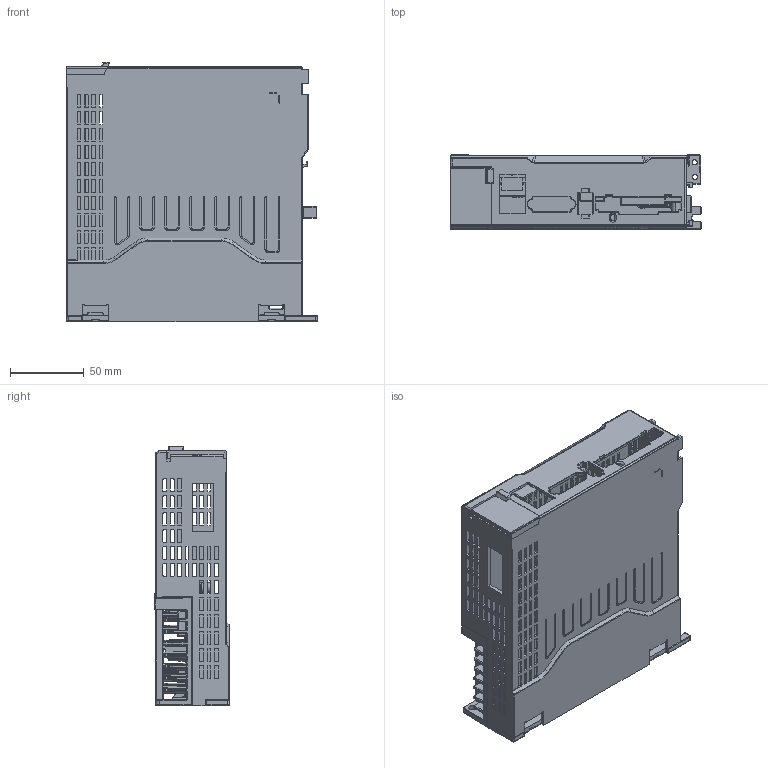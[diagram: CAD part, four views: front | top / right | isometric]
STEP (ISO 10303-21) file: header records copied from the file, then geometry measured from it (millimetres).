
FILE_DESCRIPTION((''),'2;1');
FILE_NAME('L2B_ASM','2024-05-22T',('think'),(''),'CREO PARAMETRIC BY PTC INC, 2016130','CREO PARAMETRIC BY PTC INC, 2016130','');
FILE_SCHEMA(('CONFIG_CONTROL_DESIGN'));
Products named in the file (8): ADMI11C8CA7657AK_2_7_1; ADMI11C8CA7657AK_3_7_1; DBJ-SRQ-01_7_1; ADMI11C8CA7657AK_ASM_7_ASM_1_ASM; FAN_3010_7_1; 00-0710_ASM_7_ASM_1_ASM; 00-0710_ASM_ASM_1_ASM; L2B_ASM
Assembly tree (7 placements, depth 5):
  L2B_ASM
    00-0710_ASM_ASM_1_ASM
      00-0710_ASM_7_ASM_1_ASM
        ADMI11C8CA7657AK_ASM_7_ASM_1_ASM
          ADMI11C8CA7657AK_2_7_1
          ADMI11C8CA7657AK_3_7_1
          DBJ-SRQ-01_7_1
        FAN_3010_7_1
Bounding box: 170.02 x 50.51 x 175.8 mm (x, y, z)
Volume: 145869.1 mm3; surface area: 234162.3 mm2
Topology: 4 solids, 5 shells, 4912 faces, 13101 edges, 8030 vertices
Faces by surface type: cylinder 1941, plane 1750, bspline 695, sphere 259, torus 171, cone 93, extrusion 3
Entity records: 189287 total; most frequent: CARTESIAN_POINT 73494, ORIENTED_EDGE 25720, DIRECTION 21793, EDGE_CURVE 12860, VERTEX_POINT 8030, AXIS2_PLACEMENT_3D 7440, VECTOR 6913, LINE 6910
